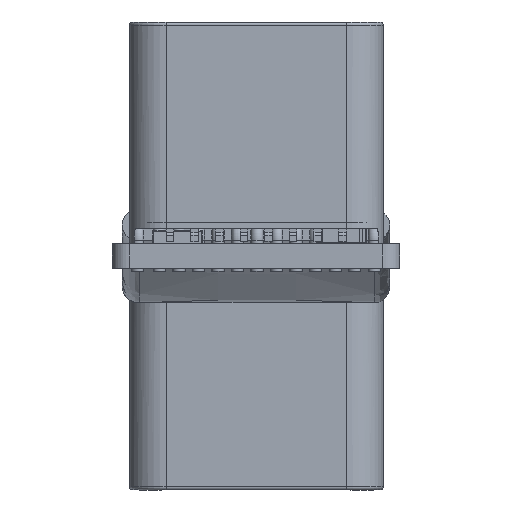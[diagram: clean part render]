
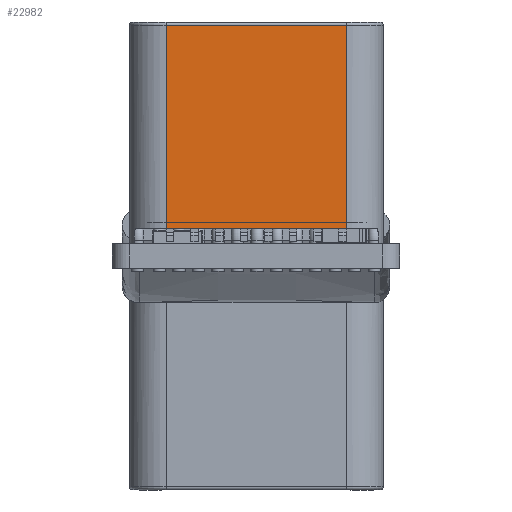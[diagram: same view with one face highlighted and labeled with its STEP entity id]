
A CAD part, front view. The second image highlights one B-rep face of the part: STEP entity #22982.
In plain terms, the highlighted planar face has unit normal (0, -1, 0).
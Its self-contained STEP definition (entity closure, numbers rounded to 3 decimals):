
#22219 = VERTEX_POINT('',#22220);
#22220 = CARTESIAN_POINT('',(-29.781,99.731,
    2.998));
#22227 = EDGE_CURVE('',#22228,#22219,#22230,.T.);
#22228 = VERTEX_POINT('',#22229);
#22229 = CARTESIAN_POINT('',(-29.781,99.731,
    -3.602));
#22230 = LINE('',#22231,#22232);
#22231 = CARTESIAN_POINT('',(-29.781,99.731,
    102.308));
#22232 = VECTOR('',#22233,1.);
#22233 = DIRECTION('',(0.,0.,1.));
#22403 = VERTEX_POINT('',#22404);
#22404 = CARTESIAN_POINT('',(-35.631,99.731,
    -3.602));
#22411 = EDGE_CURVE('',#22412,#22403,#22414,.T.);
#22412 = VERTEX_POINT('',#22413);
#22413 = CARTESIAN_POINT('',(-35.631,99.731,
    2.998));
#22414 = LINE('',#22415,#22416);
#22415 = CARTESIAN_POINT('',(-35.631,99.731,
    102.308));
#22416 = VECTOR('',#22417,1.);
#22417 = DIRECTION('',(0.,0.,-1.));
#22739 = EDGE_CURVE('',#22219,#22412,#22740,.T.);
#22740 = LINE('',#22741,#22742);
#22741 = CARTESIAN_POINT('',(0.,99.731,2.998));
#22742 = VECTOR('',#22743,1.);
#22743 = DIRECTION('',(-1.,0.,0.));
#22982 = ADVANCED_FACE('',(#22983),#22994,.F.);
#22983 = FACE_BOUND('',#22984,.T.);
#22984 = EDGE_LOOP('',(#22985,#22986,#22992,#22993));
#22985 = ORIENTED_EDGE('',*,*,#22411,.T.);
#22986 = ORIENTED_EDGE('',*,*,#22987,.T.);
#22987 = EDGE_CURVE('',#22403,#22228,#22988,.T.);
#22988 = LINE('',#22989,#22990);
#22989 = CARTESIAN_POINT('',(-29.781,99.731,
    -3.602));
#22990 = VECTOR('',#22991,1.);
#22991 = DIRECTION('',(1.,0.,0.));
#22992 = ORIENTED_EDGE('',*,*,#22227,.T.);
#22993 = ORIENTED_EDGE('',*,*,#22739,.T.);
#22994 = PLANE('',#22995);
#22995 = AXIS2_PLACEMENT_3D('',#22996,#22997,#22998);
#22996 = CARTESIAN_POINT('',(0.,99.731,102.308));
#22997 = DIRECTION('',(0.,1.,0.));
#22998 = DIRECTION('',(1.,0.,0.));
